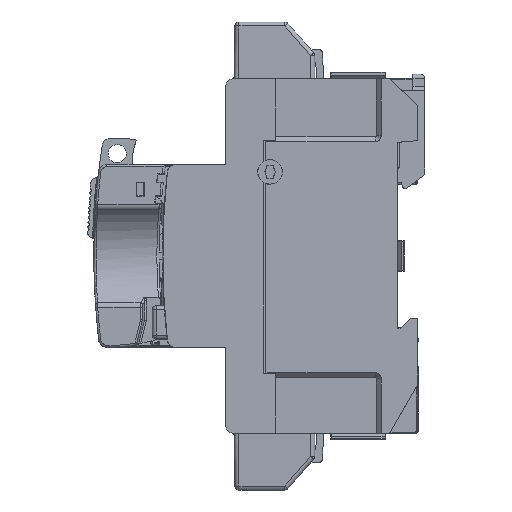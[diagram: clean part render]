
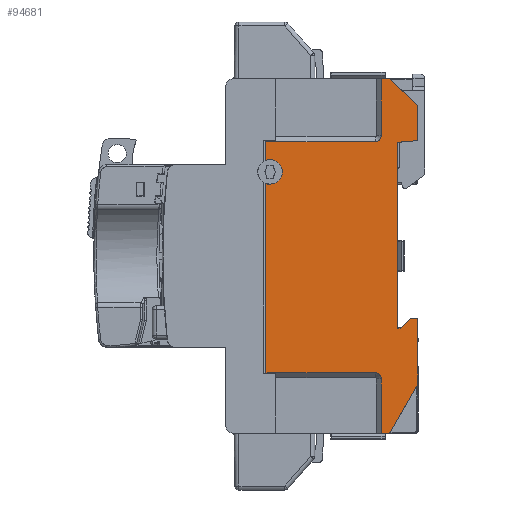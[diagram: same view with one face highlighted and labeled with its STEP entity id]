
A CAD part, front view. The second image highlights one B-rep face of the part: STEP entity #94681.
In plain terms, the highlighted planar face has unit normal (0, -1, 0).
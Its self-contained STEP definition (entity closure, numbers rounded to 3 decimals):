
#1671=DIRECTION('',(1.,0.,0.));
#1672=VECTOR('',#1671,2.);
#1673=CARTESIAN_POINT('',(29.35,-35.8,-43.75));
#1674=LINE('',#1673,#1672);
#1835=CARTESIAN_POINT('',(1.9,-35.8,20.75));
#1836=DIRECTION('',(0.,-1.,0.));
#1837=DIRECTION('',(0.,0.,-1.));
#1838=AXIS2_PLACEMENT_3D('',#1835,#1836,#1837);
#1840=DIRECTION('',(-1.,0.,0.));
#1841=VECTOR('',#1840,1.);
#1842=CARTESIAN_POINT('',(1.9,-35.8,23.75));
#1843=LINE('',#1842,#1841);
#1844=DIRECTION('',(0.,0.,1.));
#1845=VECTOR('',#1844,4.5);
#1846=CARTESIAN_POINT('',(0.9,-35.8,23.75));
#1847=LINE('',#1846,#1845);
#1848=DIRECTION('',(1.,0.,0.));
#1849=VECTOR('',#1848,24.5);
#1850=CARTESIAN_POINT('',(3.35,-35.8,28.25));
#1851=LINE('',#1850,#1849);
#1852=CARTESIAN_POINT('',(27.85,-35.8,29.75));
#1853=DIRECTION('',(0.,-1.,0.));
#1854=DIRECTION('',(0.,0.,-1.));
#1855=AXIS2_PLACEMENT_3D('',#1852,#1853,#1854);
#1857=DIRECTION('',(0.,0.,1.));
#1858=VECTOR('',#1857,14.);
#1859=CARTESIAN_POINT('',(29.35,-35.8,29.75));
#1860=LINE('',#1859,#1858);
#1861=DIRECTION('',(0.731,0.,-0.682));
#1862=VECTOR('',#1861,9.571);
#1863=CARTESIAN_POINT('',(31.35,-35.8,43.75));
#1864=LINE('',#1863,#1862);
#1865=DIRECTION('',(-0.996,0.,-0.087));
#1866=VECTOR('',#1865,5.019);
#1867=CARTESIAN_POINT('',(38.35,-35.8,28.487));
#1868=LINE('',#1867,#1866);
#1869=DIRECTION('',(0.707,0.,0.707));
#1870=VECTOR('',#1869,3.536);
#1871=CARTESIAN_POINT('',(34.,-35.8,-17.85));
#1872=LINE('',#1871,#1870);
#1873=DIRECTION('',(-0.5,0.,-0.866));
#1874=VECTOR('',#1873,14.);
#1875=CARTESIAN_POINT('',(38.35,-35.8,-31.626));
#1876=LINE('',#1875,#1874);
#1877=DIRECTION('',(0.,0.,1.));
#1878=VECTOR('',#1877,13.4);
#1879=CARTESIAN_POINT('',(29.35,-35.8,-43.75));
#1880=LINE('',#1879,#1878);
#1881=CARTESIAN_POINT('',(27.85,-35.8,-30.35));
#1882=DIRECTION('',(0.,-1.,0.));
#1883=DIRECTION('',(1.,0.,0.));
#1884=AXIS2_PLACEMENT_3D('',#1881,#1882,#1883);
#1886=DIRECTION('',(-1.,0.,0.));
#1887=VECTOR('',#1886,24.5);
#1888=CARTESIAN_POINT('',(27.85,-35.8,
-28.85));
#1889=LINE('',#1888,#1887);
#1890=DIRECTION('',(-1.,0.,0.));
#1891=VECTOR('',#1890,2.45);
#1892=CARTESIAN_POINT('',(3.35,-35.8,-28.85));
#1893=LINE('',#1892,#1891);
#1894=DIRECTION('',(0.,0.,1.));
#1895=VECTOR('',#1894,46.6);
#1896=CARTESIAN_POINT('',(0.9,-35.8,-28.85));
#1897=LINE('',#1896,#1895);
#1902=DIRECTION('',(-1.,0.,0.));
#1903=VECTOR('',#1902,1.);
#1904=CARTESIAN_POINT('',(1.9,-35.8,17.75));
#1905=LINE('',#1904,#1903);
#5833=DIRECTION('',(-1.,0.,0.));
#5834=VECTOR('',#5833,2.);
#5835=CARTESIAN_POINT('',(31.35,-35.8,43.75));
#5836=LINE('',#5835,#5834);
#24104=DIRECTION('',(0.,0.,1.));
#24105=VECTOR('',#24104,45.9);
#24106=CARTESIAN_POINT('',(33.35,-35.8,-17.85));
#24107=LINE('',#24106,#24105);
#38906=DIRECTION('',(-1.,0.,0.));
#38907=VECTOR('',#38906,2.45);
#38908=CARTESIAN_POINT('',(3.35,-35.8,28.25));
#38909=LINE('',#38908,#38907);
#52877=DIRECTION('',(0.,0.,1.));
#52878=VECTOR('',#52877,8.735);
#52879=CARTESIAN_POINT('',(38.35,-35.8,28.487));
#52880=LINE('',#52879,#52878);
#53690=DIRECTION('',(-1.,0.,0.));
#53691=VECTOR('',#53690,0.65);
#53692=CARTESIAN_POINT('',(34.,-35.8,-17.85));
#53693=LINE('',#53692,#53691);
#53718=DIRECTION('',(0.,0.,1.));
#53719=VECTOR('',#53718,16.276);
#53720=CARTESIAN_POINT('',(38.35,-35.8,-31.626));
#53721=LINE('',#53720,#53719);
#53746=DIRECTION('',(-1.,0.,0.));
#53747=VECTOR('',#53746,1.85);
#53748=CARTESIAN_POINT('',(38.35,-35.8,-15.35));
#53749=LINE('',#53748,#53747);
#90166=CARTESIAN_POINT('',(1.9,-35.8,17.75));
#90167=CARTESIAN_POINT('',(0.9,-35.8,17.75));
#90168=VERTEX_POINT('',#90166);
#90169=VERTEX_POINT('',#90167);
#90170=CARTESIAN_POINT('',(1.9,-35.8,23.75));
#90171=VERTEX_POINT('',#90170);
#90172=CARTESIAN_POINT('',(0.9,-35.8,23.75));
#90173=VERTEX_POINT('',#90172);
#90174=CARTESIAN_POINT('',(0.9,-35.8,28.25));
#90175=VERTEX_POINT('',#90174);
#90176=CARTESIAN_POINT('',(3.35,-35.8,28.25));
#90177=VERTEX_POINT('',#90176);
#90178=CARTESIAN_POINT('',(27.85,-35.8,
28.25));
#90179=VERTEX_POINT('',#90178);
#90180=CARTESIAN_POINT('',(29.35,-35.8,29.75));
#90181=VERTEX_POINT('',#90180);
#90182=CARTESIAN_POINT('',(29.35,-35.8,43.75));
#90183=VERTEX_POINT('',#90182);
#90184=CARTESIAN_POINT('',(31.35,-35.8,43.75));
#90185=VERTEX_POINT('',#90184);
#90186=CARTESIAN_POINT('',(38.35,-35.8,37.222));
#90187=VERTEX_POINT('',#90186);
#90188=CARTESIAN_POINT('',(38.35,-35.8,28.487));
#90189=VERTEX_POINT('',#90188);
#90190=CARTESIAN_POINT('',(33.35,-35.8,28.05));
#90191=VERTEX_POINT('',#90190);
#90192=CARTESIAN_POINT('',(33.35,-35.8,-17.85));
#90193=VERTEX_POINT('',#90192);
#90194=CARTESIAN_POINT('',(34.,-35.8,-17.85));
#90195=VERTEX_POINT('',#90194);
#90196=CARTESIAN_POINT('',(36.5,-35.8,-15.35));
#90197=VERTEX_POINT('',#90196);
#90198=CARTESIAN_POINT('',(38.35,-35.8,-15.35));
#90199=VERTEX_POINT('',#90198);
#90200=CARTESIAN_POINT('',(38.35,-35.8,-31.626));
#90201=VERTEX_POINT('',#90200);
#90202=CARTESIAN_POINT('',(31.35,-35.8,-43.75));
#90203=VERTEX_POINT('',#90202);
#90204=CARTESIAN_POINT('',(29.35,-35.8,-43.75));
#90205=VERTEX_POINT('',#90204);
#90206=CARTESIAN_POINT('',(29.35,-35.8,
-30.35));
#90207=VERTEX_POINT('',#90206);
#90208=CARTESIAN_POINT('',(27.85,-35.8,-28.85));
#90209=VERTEX_POINT('',#90208);
#90210=CARTESIAN_POINT('',(3.35,-35.8,-28.85));
#90211=VERTEX_POINT('',#90210);
#90212=CARTESIAN_POINT('',(0.9,-35.8,-28.85));
#90213=VERTEX_POINT('',#90212);
#94628=CARTESIAN_POINT('',(38.35,-35.8,0.));
#94629=DIRECTION('',(0.,1.,0.));
#94630=DIRECTION('',(0.,0.,-1.));
#94631=AXIS2_PLACEMENT_3D('',#94628,#94629,#94630);
#94632=PLANE('',#94631);
#94634=ORIENTED_EDGE('',*,*,#94633,.F.);
#94636=ORIENTED_EDGE('',*,*,#94635,.T.);
#94638=ORIENTED_EDGE('',*,*,#94637,.T.);
#94640=ORIENTED_EDGE('',*,*,#94639,.T.);
#94642=ORIENTED_EDGE('',*,*,#94641,.F.);
#94644=ORIENTED_EDGE('',*,*,#94643,.T.);
#94646=ORIENTED_EDGE('',*,*,#94645,.T.);
#94648=ORIENTED_EDGE('',*,*,#94647,.T.);
#94650=ORIENTED_EDGE('',*,*,#94649,.F.);
#94652=ORIENTED_EDGE('',*,*,#94651,.T.);
#94654=ORIENTED_EDGE('',*,*,#94653,.F.);
#94656=ORIENTED_EDGE('',*,*,#94655,.T.);
#94658=ORIENTED_EDGE('',*,*,#94657,.F.);
#94660=ORIENTED_EDGE('',*,*,#94659,.F.);
#94662=ORIENTED_EDGE('',*,*,#94661,.T.);
#94664=ORIENTED_EDGE('',*,*,#94663,.F.);
#94666=ORIENTED_EDGE('',*,*,#94665,.F.);
#94667=ORIENTED_EDGE('',*,*,#94619,.T.);
#94668=ORIENTED_EDGE('',*,*,#94456,.F.);
#94670=ORIENTED_EDGE('',*,*,#94669,.T.);
#94672=ORIENTED_EDGE('',*,*,#94671,.T.);
#94674=ORIENTED_EDGE('',*,*,#94673,.T.);
#94676=ORIENTED_EDGE('',*,*,#94675,.T.);
#94678=ORIENTED_EDGE('',*,*,#94677,.T.);
#94679=EDGE_LOOP('',(#94634,#94636,#94638,#94640,#94642,#94644,#94646,#94648,
#94650,#94652,#94654,#94656,#94658,#94660,#94662,#94664,#94666,#94667,#94668,
#94670,#94672,#94674,#94676,#94678));
#94680=FACE_OUTER_BOUND('',#94679,.F.);
#1839=CIRCLE('',#1838,3.);
#1856=CIRCLE('',#1855,1.5);
#1885=CIRCLE('',#1884,1.5);
#94456=EDGE_CURVE('',#90205,#90203,#1674,.T.);
#94619=EDGE_CURVE('',#90201,#90203,#1876,.T.);
#94633=EDGE_CURVE('',#90168,#90169,#1905,.T.);
#94635=EDGE_CURVE('',#90168,#90171,#1839,.T.);
#94637=EDGE_CURVE('',#90171,#90173,#1843,.T.);
#94639=EDGE_CURVE('',#90173,#90175,#1847,.T.);
#94641=EDGE_CURVE('',#90177,#90175,#38909,.T.);
#94643=EDGE_CURVE('',#90177,#90179,#1851,.T.);
#94645=EDGE_CURVE('',#90179,#90181,#1856,.T.);
#94647=EDGE_CURVE('',#90181,#90183,#1860,.T.);
#94649=EDGE_CURVE('',#90185,#90183,#5836,.T.);
#94651=EDGE_CURVE('',#90185,#90187,#1864,.T.);
#94653=EDGE_CURVE('',#90189,#90187,#52880,.T.);
#94655=EDGE_CURVE('',#90189,#90191,#1868,.T.);
#94657=EDGE_CURVE('',#90193,#90191,#24107,.T.);
#94659=EDGE_CURVE('',#90195,#90193,#53693,.T.);
#94661=EDGE_CURVE('',#90195,#90197,#1872,.T.);
#94663=EDGE_CURVE('',#90199,#90197,#53749,.T.);
#94665=EDGE_CURVE('',#90201,#90199,#53721,.T.);
#94669=EDGE_CURVE('',#90205,#90207,#1880,.T.);
#94671=EDGE_CURVE('',#90207,#90209,#1885,.T.);
#94673=EDGE_CURVE('',#90209,#90211,#1889,.T.);
#94675=EDGE_CURVE('',#90211,#90213,#1893,.T.);
#94677=EDGE_CURVE('',#90213,#90169,#1897,.T.);
#94681=ADVANCED_FACE('',(#94680),#94632,.F.);
